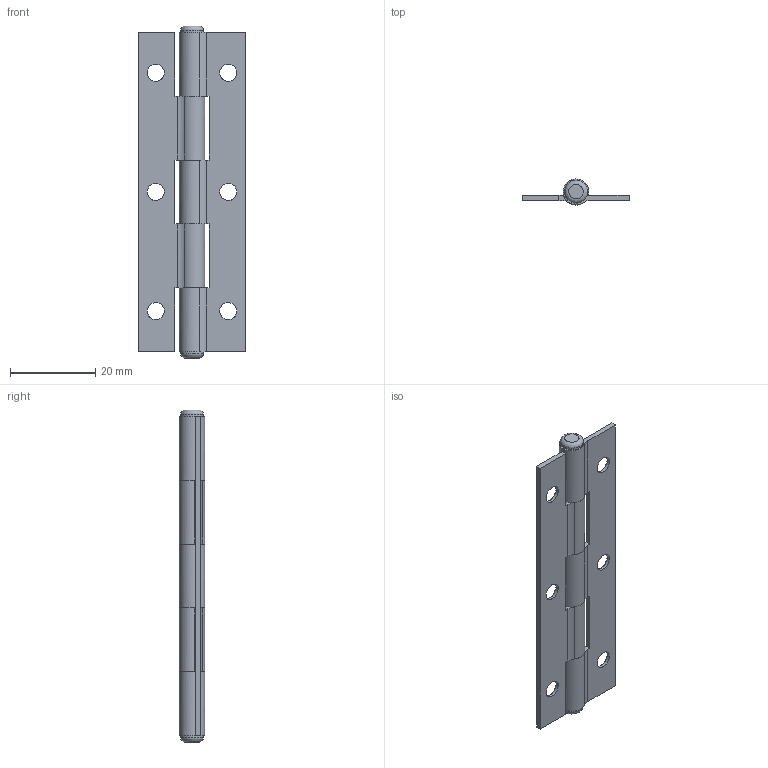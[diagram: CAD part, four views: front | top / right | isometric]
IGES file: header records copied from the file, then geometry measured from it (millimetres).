
Global section: file name: DR_HH7525-12; native system: Autodesk Inventor 2015; preprocessor: unknown; author: user; date: 20170816.082318; units: millimetre
Bounding box: 25 x 6 x 78 mm (x, y, z)
Volume: 3702.4 mm3; surface area: 6421.7 mm2
Topology: 3 solids, 3 shells, 69 faces, 197 edges, 136 vertices
Faces by surface type: bspline 69
